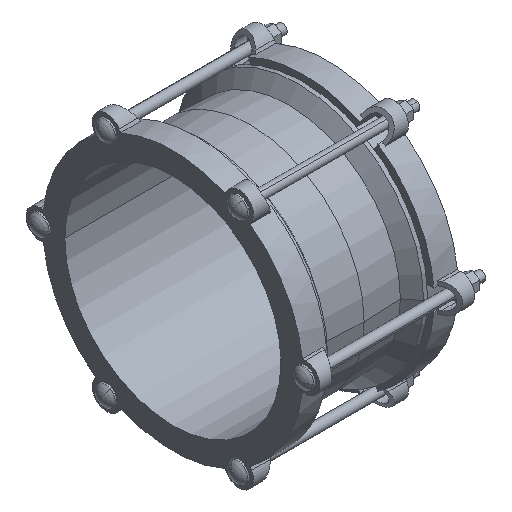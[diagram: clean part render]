
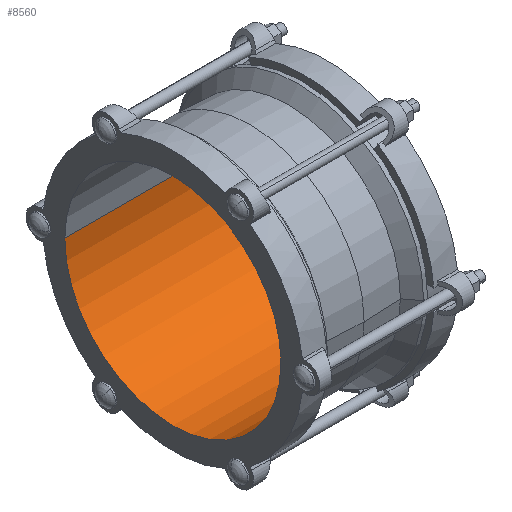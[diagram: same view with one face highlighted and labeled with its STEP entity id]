
A CAD part, isometric view. The second image highlights one B-rep face of the part: STEP entity #8560.
In plain terms, the highlighted cylindrical face has radius 135.25 mm (diameter 270.5 mm), a partial arc.
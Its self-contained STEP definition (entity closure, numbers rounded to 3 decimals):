
#1619=CARTESIAN_POINT('',(97.,0.,0.));
#1620=DIRECTION('',(-1.,0.,0.));
#1621=DIRECTION('',(0.,1.,0.));
#1622=AXIS2_PLACEMENT_3D('',#1619,#1620,#1621);
#3185=DIRECTION('',(1.,0.,0.));
#3186=VECTOR('',#3185,194.);
#3187=CARTESIAN_POINT('',(-97.,135.25,0.));
#3188=LINE('',#3187,#3186);
#3189=DIRECTION('',(1.,0.,0.));
#3190=VECTOR('',#3189,194.);
#3191=CARTESIAN_POINT('',(-97.,-135.25,0.));
#3192=LINE('',#3191,#3190);
#3193=CARTESIAN_POINT('',(-97.,0.,0.));
#3194=DIRECTION('',(-1.,0.,0.));
#3195=DIRECTION('',(0.,1.,0.));
#3196=AXIS2_PLACEMENT_3D('',#3193,#3194,#3195);
#3672=CARTESIAN_POINT('',(-97.,135.25,0.));
#3673=CARTESIAN_POINT('',(97.,135.25,0.));
#3674=VERTEX_POINT('',#3672);
#3675=VERTEX_POINT('',#3673);
#3684=CARTESIAN_POINT('',(-97.,-135.25,0.));
#3685=CARTESIAN_POINT('',(97.,-135.25,0.));
#3686=VERTEX_POINT('',#3684);
#3687=VERTEX_POINT('',#3685);
#8547=CARTESIAN_POINT('',(-106.7,0.,0.));
#8548=DIRECTION('',(1.,0.,0.));
#8549=DIRECTION('',(0.,-1.,0.));
#8550=AXIS2_PLACEMENT_3D('',#8547,#8548,#8549);
#8551=CYLINDRICAL_SURFACE('',#8550,135.25);
#8553=ORIENTED_EDGE('',*,*,#8552,.T.);
#8554=ORIENTED_EDGE('',*,*,#6403,.T.);
#8556=ORIENTED_EDGE('',*,*,#8555,.F.);
#8557=ORIENTED_EDGE('',*,*,#4709,.F.);
#8558=EDGE_LOOP('',(#8553,#8554,#8556,#8557));
#8559=FACE_OUTER_BOUND('',#8558,.F.);
#8560=ADVANCED_FACE('',(#8559),#8551,.F.);
#1623=CIRCLE('',#1622,135.25);
#3197=CIRCLE('',#3196,135.25);
#4709=EDGE_CURVE('',#3674,#3686,#3197,.T.);
#6403=EDGE_CURVE('',#3675,#3687,#1623,.T.);
#8552=EDGE_CURVE('',#3674,#3675,#3188,.T.);
#8555=EDGE_CURVE('',#3686,#3687,#3192,.T.);
